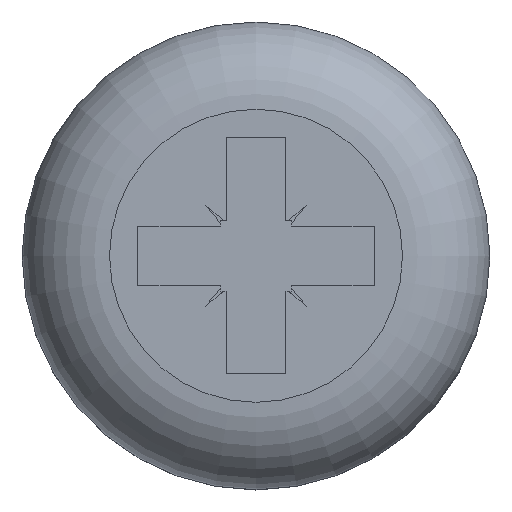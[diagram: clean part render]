
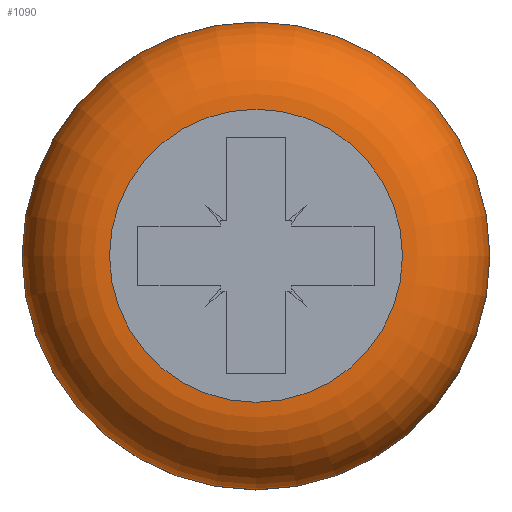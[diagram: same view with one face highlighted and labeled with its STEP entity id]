
A CAD part, top view. The second image highlights one B-rep face of the part: STEP entity #1090.
In plain terms, the highlighted toroidal (fillet/blend) face has major radius 2.975 mm and minor radius 1.775 mm.
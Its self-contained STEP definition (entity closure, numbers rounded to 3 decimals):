
#18=TOROIDAL_SURFACE('',#1163,2.975,1.775);
#75=FACE_OUTER_BOUND('',#131,.T.);
#131=EDGE_LOOP('',(#842,#843,#844,#845,#846));
#176=CIRCLE('',#1164,4.75);
#177=CIRCLE('',#1165,1.775);
#178=CIRCLE('',#1166,2.975);
#179=CIRCLE('',#1167,4.75);
#492=VERTEX_POINT('',#9650);
#493=VERTEX_POINT('',#9651);
#494=VERTEX_POINT('',#9653);
#623=EDGE_CURVE('',#492,#493,#176,.T.);
#624=EDGE_CURVE('',#493,#494,#177,.T.);
#625=EDGE_CURVE('',#494,#494,#178,.T.);
#626=EDGE_CURVE('',#493,#492,#179,.T.);
#842=ORIENTED_EDGE('',*,*,#623,.T.);
#843=ORIENTED_EDGE('',*,*,#624,.T.);
#844=ORIENTED_EDGE('',*,*,#625,.T.);
#845=ORIENTED_EDGE('',*,*,#624,.F.);
#846=ORIENTED_EDGE('',*,*,#626,.T.);
#1090=ADVANCED_FACE('',(#75),#18,.T.);
#1163=AXIS2_PLACEMENT_3D('',#9649,#1264,#1265);
#1164=AXIS2_PLACEMENT_3D('',#9652,#1266,#1267);
#1165=AXIS2_PLACEMENT_3D('',#9654,#1268,#1269);
#1166=AXIS2_PLACEMENT_3D('',#9655,#1270,#1271);
#1167=AXIS2_PLACEMENT_3D('',#9656,#1272,#1273);
#1264=DIRECTION('center_axis',(0.,0.,-1.));
#1265=DIRECTION('ref_axis',(-1.,0.,0.));
#1266=DIRECTION('center_axis',(0.,0.,1.));
#1267=DIRECTION('ref_axis',(0.,-1.,0.));
#1268=DIRECTION('center_axis',(0.,-1.,0.));
#1269=DIRECTION('ref_axis',(1.,0.,0.));
#1270=DIRECTION('center_axis',(0.,0.,-1.));
#1271=DIRECTION('ref_axis',(0.,-1.,0.));
#1272=DIRECTION('center_axis',(0.,0.,1.));
#1273=DIRECTION('ref_axis',(0.,-1.,0.));
#9649=CARTESIAN_POINT('Origin',(0.,0.,14.275));
#9650=CARTESIAN_POINT('',(0.,-4.75,14.275));
#9651=CARTESIAN_POINT('',(4.75,0.,14.275));
#9652=CARTESIAN_POINT('Origin',(0.,0.,14.275));
#9653=CARTESIAN_POINT('',(2.975,0.,16.05));
#9654=CARTESIAN_POINT('Origin',(2.975,0.,14.275));
#9655=CARTESIAN_POINT('Origin',(0.,0.,16.05));
#9656=CARTESIAN_POINT('Origin',(0.,0.,14.275));
